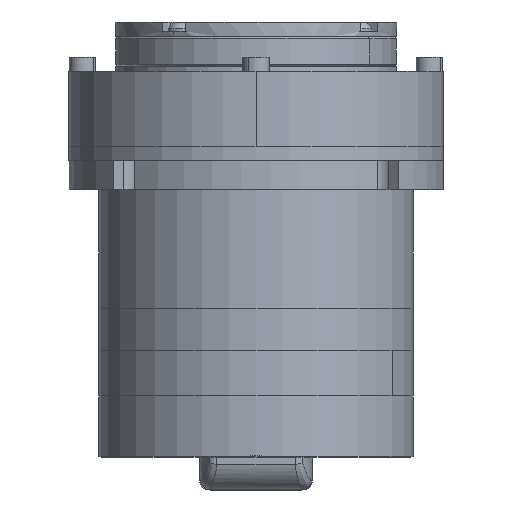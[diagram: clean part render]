
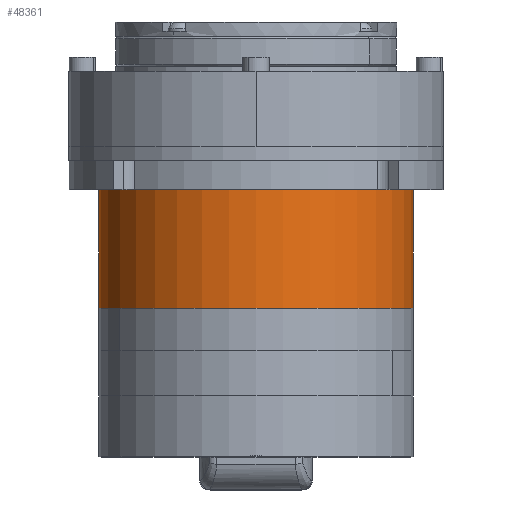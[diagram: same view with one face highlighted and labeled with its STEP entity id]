
A CAD part, top view. The second image highlights one B-rep face of the part: STEP entity #48361.
In plain terms, the highlighted cylindrical face has radius 33.5 mm (diameter 67 mm), a partial arc.
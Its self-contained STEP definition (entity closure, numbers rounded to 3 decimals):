
#1350 = DIRECTION ( 'NONE',  ( 1., 0., 0. ) ) ;
#5575 = ORIENTED_EDGE ( 'NONE', *, *, #13742, .F. ) ;
#5670 = CIRCLE ( 'NONE', #33229, 33.5 ) ;
#7391 = VERTEX_POINT ( 'NONE', #35285 ) ;
#8262 = CARTESIAN_POINT ( 'NONE',  ( 0., -34.5, 0. ) ) ;
#8982 = LINE ( 'NONE', #35358, #33580 ) ;
#9563 = DIRECTION ( 'NONE',  ( 0., -1., 0. ) ) ;
#9687 = CARTESIAN_POINT ( 'NONE',  ( 33.5, -9.2, 0. ) ) ;
#9809 = VERTEX_POINT ( 'NONE', #16115 ) ;
#9813 = DIRECTION ( 'NONE',  ( -1., 0., 0. ) ) ;
#13742 = EDGE_CURVE ( 'NONE', #9809, #42834, #8982, .T. ) ;
#13906 = AXIS2_PLACEMENT_3D ( 'NONE', #24310, #9563, #9813 ) ;
#16115 = CARTESIAN_POINT ( 'NONE',  ( -33.5, -34.5, 0. ) ) ;
#19586 = DIRECTION ( 'NONE',  ( 0., 1., 0. ) ) ;
#23279 = DIRECTION ( 'NONE',  ( -1., 0., 0. ) ) ;
#23388 = CARTESIAN_POINT ( 'NONE',  ( -33.5, -9.2, 0. ) ) ;
#23999 = DIRECTION ( 'NONE',  ( 0., 1., 0. ) ) ;
#24251 = DIRECTION ( 'NONE',  ( 0., -1., 0. ) ) ;
#24310 = CARTESIAN_POINT ( 'NONE',  ( 0., -9.2, 0. ) ) ;
#24902 = EDGE_CURVE ( 'NONE', #36584, #42834, #46131, .T. ) ;
#27166 = ORIENTED_EDGE ( 'NONE', *, *, #38518, .T. ) ;
#27537 = VECTOR ( 'NONE', #44311, 1000. ) ;
#28981 = ORIENTED_EDGE ( 'NONE', *, *, #32484, .F. ) ;
#30438 = FACE_OUTER_BOUND ( 'NONE', #41522, .T. ) ;
#30944 = ORIENTED_EDGE ( 'NONE', *, *, #24902, .T. ) ;
#32401 = CARTESIAN_POINT ( 'NONE',  ( 0., -34.5, 0. ) ) ;
#32484 = EDGE_CURVE ( 'NONE', #7391, #9809, #5670, .T. ) ;
#33229 = AXIS2_PLACEMENT_3D ( 'NONE', #32401, #24251, #1350 ) ;
#33580 = VECTOR ( 'NONE', #23999, 1000. ) ;
#35285 = CARTESIAN_POINT ( 'NONE',  ( 33.5, -34.5, 0. ) ) ;
#35358 = CARTESIAN_POINT ( 'NONE',  ( -33.5, -34.5, 0. ) ) ;
#36584 = VERTEX_POINT ( 'NONE', #9687 ) ;
#38518 = EDGE_CURVE ( 'NONE', #7391, #36584, #41078, .T. ) ;
#41078 = LINE ( 'NONE', #48694, #27537 ) ;
#41522 = EDGE_LOOP ( 'NONE', ( #28981, #27166, #30944, #5575 ) ) ;
#41767 = CYLINDRICAL_SURFACE ( 'NONE', #46698, 33.5 ) ;
#42834 = VERTEX_POINT ( 'NONE', #23388 ) ;
#44311 = DIRECTION ( 'NONE',  ( 0., 1., 0. ) ) ;
#46131 = CIRCLE ( 'NONE', #13906, 33.5 ) ;
#46698 = AXIS2_PLACEMENT_3D ( 'NONE', #8262, #19586, #23279 ) ;
#48361 = ADVANCED_FACE ( 'NONE', ( #30438 ), #41767, .T. ) ;
#48694 = CARTESIAN_POINT ( 'NONE',  ( 33.5, -34.5, 0. ) ) ;
